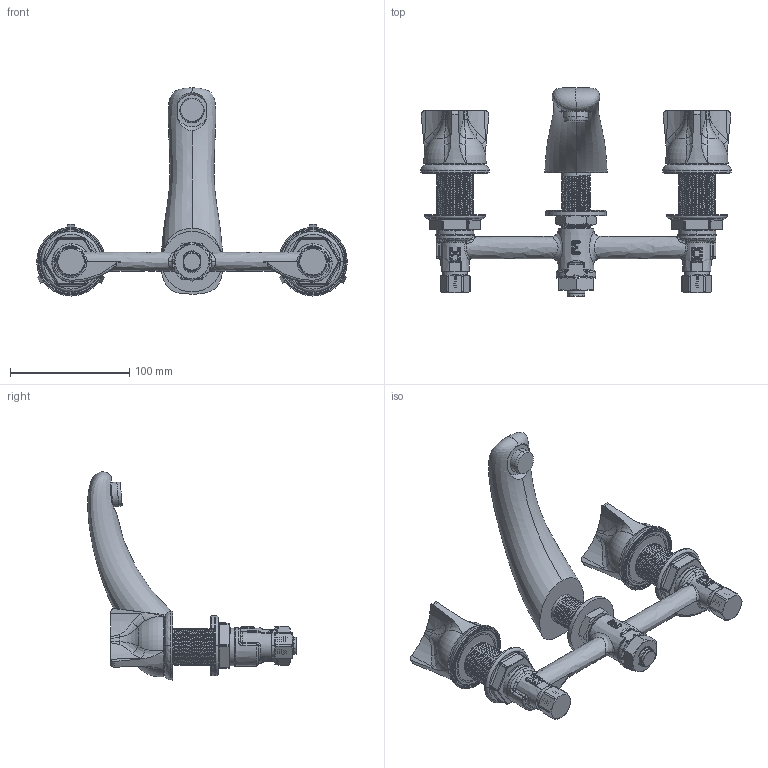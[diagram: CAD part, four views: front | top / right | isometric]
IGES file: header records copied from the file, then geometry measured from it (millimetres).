
Start section:  PTC IGES file: 404-950AB.igs
Global section: file name: 404-950AB.igs; native system: Creo Parametric by PTC Inc.; preprocessor: 2017260; author: usch_engrender; organization: Unknown; date: 20180531.153011; units: inch
Bounding box: 260.86 x 175.15 x 174.81 mm (x, y, z)
Surface area: 130879 mm2 (no closed solid volume)
Topology: 0 solids, 47 shells, 1098 faces, 2962 edges, 1895 vertices
Faces by surface type: revolution 637, bspline 461
